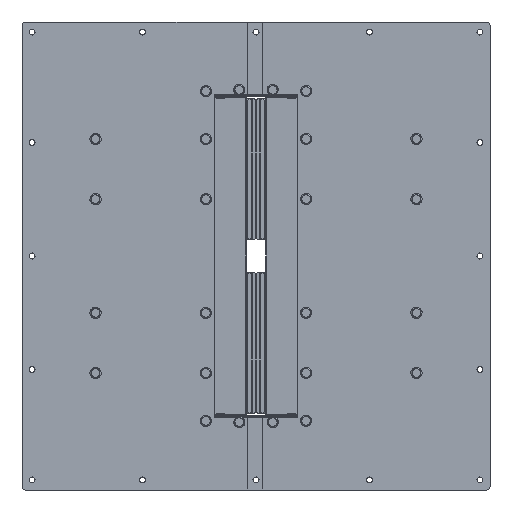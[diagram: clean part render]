
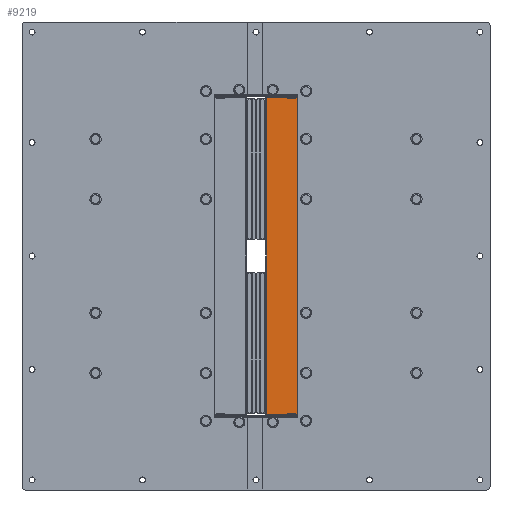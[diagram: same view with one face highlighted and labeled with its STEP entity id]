
A CAD part, left-side view. The second image highlights one B-rep face of the part: STEP entity #9219.
In plain terms, the highlighted planar face has unit normal (-1, 0, 0).
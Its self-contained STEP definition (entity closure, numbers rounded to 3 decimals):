
#8285=AXIS2_PLACEMENT_3D('Plane Axis2P3D',#8282,#8283,#8284) ;
#8419=AXIS2_PLACEMENT_3D('Circle Axis2P3D',#8417,#8418,$) ;
#8481=AXIS2_PLACEMENT_3D('Circle Axis2P3D',#8479,#8480,$) ;
#8757=AXIS2_PLACEMENT_3D('Circle Axis2P3D',#8755,#8756,$) ;
#8805=AXIS2_PLACEMENT_3D('Circle Axis2P3D',#8803,#8804,$) ;
#9113=AXIS2_PLACEMENT_3D('Circle Axis2P3D',#9111,#9112,$) ;
#9122=AXIS2_PLACEMENT_3D('Circle Axis2P3D',#9120,#9121,$) ;
#9131=AXIS2_PLACEMENT_3D('Circle Axis2P3D',#9129,#9130,$) ;
#9140=AXIS2_PLACEMENT_3D('Circle Axis2P3D',#9138,#9139,$) ;
#9149=AXIS2_PLACEMENT_3D('Circle Axis2P3D',#9147,#9148,$) ;
#9158=AXIS2_PLACEMENT_3D('Circle Axis2P3D',#9156,#9157,$) ;
#9167=AXIS2_PLACEMENT_3D('Circle Axis2P3D',#9165,#9166,$) ;
#9176=AXIS2_PLACEMENT_3D('Circle Axis2P3D',#9174,#9175,$) ;
#9185=AXIS2_PLACEMENT_3D('Circle Axis2P3D',#9183,#9184,$) ;
#9194=AXIS2_PLACEMENT_3D('Circle Axis2P3D',#9192,#9193,$) ;
#9203=AXIS2_PLACEMENT_3D('Circle Axis2P3D',#9201,#9202,$) ;
#9212=AXIS2_PLACEMENT_3D('Circle Axis2P3D',#9210,#9211,$) ;
#8282=CARTESIAN_POINT('Axis2P3D Location',(0.,0.,0.)) ;
#8323=CARTESIAN_POINT('Vertex',(0.,-60.,238.5)) ;
#8328=CARTESIAN_POINT('Line Origine',(0.,-60.,249.25)) ;
#8332=CARTESIAN_POINT('Vertex',(0.,-60.,260.)) ;
#8386=CARTESIAN_POINT('Line Origine',(0.,-69.,260.)) ;
#8390=CARTESIAN_POINT('Vertex',(0.,-78.,260.)) ;
#8417=CARTESIAN_POINT('Axis2P3D Location',(0.,-78.,255.)) ;
#8421=CARTESIAN_POINT('Vertex',(0.,-83.,255.)) ;
#8448=CARTESIAN_POINT('Line Origine',(0.,-83.,0.)) ;
#8452=CARTESIAN_POINT('Vertex',(0.,-83.,-255.)) ;
#8479=CARTESIAN_POINT('Axis2P3D Location',(0.,-78.,-255.)) ;
#8483=CARTESIAN_POINT('Vertex',(0.,-78.,-260.)) ;
#8510=CARTESIAN_POINT('Line Origine',(0.,-69.,-260.)) ;
#8514=CARTESIAN_POINT('Vertex',(0.,-60.,-260.)) ;
#8536=CARTESIAN_POINT('Line Origine',(0.,-60.,-249.25)) ;
#8540=CARTESIAN_POINT('Vertex',(0.,-60.,-238.5)) ;
#8580=CARTESIAN_POINT('Vertex',(0.,-57.5,237.)) ;
#8583=CARTESIAN_POINT('Line Origine',(0.,-57.5,237.75)) ;
#8587=CARTESIAN_POINT('Vertex',(0.,-57.5,238.5)) ;
#8618=CARTESIAN_POINT('Vertex',(0.,-16.62,237.)) ;
#8621=CARTESIAN_POINT('Line Origine',(0.,-37.06,237.)) ;
#8752=CARTESIAN_POINT('Vertex',(0.,-16.12,236.5)) ;
#8755=CARTESIAN_POINT('Axis2P3D Location',(0.,-16.62,236.5)) ;
#8776=CARTESIAN_POINT('Vertex',(0.,-16.12,-236.5)) ;
#8779=CARTESIAN_POINT('Line Origine',(0.,-16.12,0.)) ;
#8800=CARTESIAN_POINT('Vertex',(0.,-16.62,-237.)) ;
#8803=CARTESIAN_POINT('Axis2P3D Location',(0.,-16.62,-236.5)) ;
#8824=CARTESIAN_POINT('Vertex',(0.,-57.5,-237.)) ;
#8827=CARTESIAN_POINT('Line Origine',(0.,-37.06,-237.)) ;
#8843=CARTESIAN_POINT('Vertex',(0.,-57.5,-238.5)) ;
#8846=CARTESIAN_POINT('Line Origine',(0.,-57.5,-237.75)) ;
#8885=CARTESIAN_POINT('Line Origine',(0.,-58.75,-238.5)) ;
#8946=CARTESIAN_POINT('Line Origine',(0.,-58.75,238.5)) ;
#9111=CARTESIAN_POINT('Axis2P3D Location',(0.,-73.5,175.)) ;
#9115=CARTESIAN_POINT('Vertex',(0.,-79.,175.)) ;
#9117=CARTESIAN_POINT('Vertex',(0.,-68.,175.)) ;
#9120=CARTESIAN_POINT('Axis2P3D Location',(0.,-73.5,175.)) ;
#9129=CARTESIAN_POINT('Axis2P3D Location',(0.,-73.5,85.)) ;
#9133=CARTESIAN_POINT('Vertex',(0.,-79.,85.)) ;
#9135=CARTESIAN_POINT('Vertex',(0.,-68.,85.)) ;
#9138=CARTESIAN_POINT('Axis2P3D Location',(0.,-73.5,85.)) ;
#9147=CARTESIAN_POINT('Axis2P3D Location',(0.,-73.5,-85.)) ;
#9151=CARTESIAN_POINT('Vertex',(0.,-79.,-85.)) ;
#9153=CARTESIAN_POINT('Vertex',(0.,-68.,-85.)) ;
#9156=CARTESIAN_POINT('Axis2P3D Location',(0.,-73.5,-85.)) ;
#9165=CARTESIAN_POINT('Axis2P3D Location',(0.,-73.5,-175.)) ;
#9169=CARTESIAN_POINT('Vertex',(0.,-79.,-175.)) ;
#9171=CARTESIAN_POINT('Vertex',(0.,-68.,-175.)) ;
#9174=CARTESIAN_POINT('Axis2P3D Location',(0.,-73.5,-175.)) ;
#9183=CARTESIAN_POINT('Axis2P3D Location',(0.,-73.5,246.5)) ;
#9187=CARTESIAN_POINT('Vertex',(0.,-79.,246.5)) ;
#9189=CARTESIAN_POINT('Vertex',(0.,-68.,246.5)) ;
#9192=CARTESIAN_POINT('Axis2P3D Location',(0.,-73.5,246.5)) ;
#9201=CARTESIAN_POINT('Axis2P3D Location',(0.,-73.5,-246.5)) ;
#9205=CARTESIAN_POINT('Vertex',(0.,-79.,-246.5)) ;
#9207=CARTESIAN_POINT('Vertex',(0.,-68.,-246.5)) ;
#9210=CARTESIAN_POINT('Axis2P3D Location',(0.,-73.5,-246.5)) ;
#8283=DIRECTION('Axis2P3D Direction',(1.,0.,0.)) ;
#8284=DIRECTION('Axis2P3D XDirection',(0.,1.,0.)) ;
#8329=DIRECTION('Vector Direction',(0.,0.,-1.)) ;
#8387=DIRECTION('Vector Direction',(0.,-1.,0.)) ;
#8418=DIRECTION('Axis2P3D Direction',(1.,0.,0.)) ;
#8449=DIRECTION('Vector Direction',(0.,0.,1.)) ;
#8480=DIRECTION('Axis2P3D Direction',(1.,0.,0.)) ;
#8511=DIRECTION('Vector Direction',(0.,1.,0.)) ;
#8537=DIRECTION('Vector Direction',(0.,0.,-1.)) ;
#8584=DIRECTION('Vector Direction',(0.,0.,-1.)) ;
#8622=DIRECTION('Vector Direction',(0.,1.,0.)) ;
#8756=DIRECTION('Axis2P3D Direction',(1.,0.,0.)) ;
#8780=DIRECTION('Vector Direction',(0.,0.,1.)) ;
#8804=DIRECTION('Axis2P3D Direction',(1.,0.,0.)) ;
#8828=DIRECTION('Vector Direction',(0.,-1.,0.)) ;
#8847=DIRECTION('Vector Direction',(0.,0.,-1.)) ;
#8886=DIRECTION('Vector Direction',(0.,1.,0.)) ;
#8947=DIRECTION('Vector Direction',(0.,-1.,0.)) ;
#9112=DIRECTION('Axis2P3D Direction',(1.,0.,0.)) ;
#9121=DIRECTION('Axis2P3D Direction',(1.,0.,0.)) ;
#9130=DIRECTION('Axis2P3D Direction',(1.,0.,0.)) ;
#9139=DIRECTION('Axis2P3D Direction',(1.,0.,0.)) ;
#9148=DIRECTION('Axis2P3D Direction',(1.,0.,0.)) ;
#9157=DIRECTION('Axis2P3D Direction',(1.,0.,0.)) ;
#9166=DIRECTION('Axis2P3D Direction',(1.,0.,0.)) ;
#9175=DIRECTION('Axis2P3D Direction',(1.,0.,0.)) ;
#9184=DIRECTION('Axis2P3D Direction',(1.,0.,0.)) ;
#9193=DIRECTION('Axis2P3D Direction',(1.,0.,0.)) ;
#9202=DIRECTION('Axis2P3D Direction',(1.,0.,0.)) ;
#9211=DIRECTION('Axis2P3D Direction',(1.,0.,0.)) ;
#8330=VECTOR('Line Direction',#8329,1.) ;
#8388=VECTOR('Line Direction',#8387,1.) ;
#8450=VECTOR('Line Direction',#8449,1.) ;
#8512=VECTOR('Line Direction',#8511,1.) ;
#8538=VECTOR('Line Direction',#8537,1.) ;
#8585=VECTOR('Line Direction',#8584,1.) ;
#8623=VECTOR('Line Direction',#8622,1.) ;
#8781=VECTOR('Line Direction',#8780,1.) ;
#8829=VECTOR('Line Direction',#8828,1.) ;
#8848=VECTOR('Line Direction',#8847,1.) ;
#8887=VECTOR('Line Direction',#8886,1.) ;
#8948=VECTOR('Line Direction',#8947,1.) ;
#9094=ORIENTED_EDGE('',*,*,#8589,.T.) ;
#9095=ORIENTED_EDGE('',*,*,#8625,.T.) ;
#9096=ORIENTED_EDGE('',*,*,#8759,.T.) ;
#9097=ORIENTED_EDGE('',*,*,#8783,.T.) ;
#9098=ORIENTED_EDGE('',*,*,#8807,.T.) ;
#9099=ORIENTED_EDGE('',*,*,#8831,.T.) ;
#9100=ORIENTED_EDGE('',*,*,#8850,.T.) ;
#9101=ORIENTED_EDGE('',*,*,#8889,.F.) ;
#9102=ORIENTED_EDGE('',*,*,#8542,.F.) ;
#9103=ORIENTED_EDGE('',*,*,#8516,.F.) ;
#9104=ORIENTED_EDGE('',*,*,#8485,.F.) ;
#9105=ORIENTED_EDGE('',*,*,#8454,.F.) ;
#9106=ORIENTED_EDGE('',*,*,#8423,.F.) ;
#9107=ORIENTED_EDGE('',*,*,#8392,.F.) ;
#9108=ORIENTED_EDGE('',*,*,#8334,.F.) ;
#9109=ORIENTED_EDGE('',*,*,#8950,.F.) ;
#9126=ORIENTED_EDGE('',*,*,#9119,.T.) ;
#9127=ORIENTED_EDGE('',*,*,#9124,.T.) ;
#9144=ORIENTED_EDGE('',*,*,#9137,.T.) ;
#9145=ORIENTED_EDGE('',*,*,#9142,.T.) ;
#9162=ORIENTED_EDGE('',*,*,#9155,.T.) ;
#9163=ORIENTED_EDGE('',*,*,#9160,.T.) ;
#9180=ORIENTED_EDGE('',*,*,#9173,.T.) ;
#9181=ORIENTED_EDGE('',*,*,#9178,.T.) ;
#9198=ORIENTED_EDGE('',*,*,#9191,.T.) ;
#9199=ORIENTED_EDGE('',*,*,#9196,.T.) ;
#9216=ORIENTED_EDGE('',*,*,#9209,.T.) ;
#9217=ORIENTED_EDGE('',*,*,#9214,.T.) ;
#9128=FACE_BOUND('',#9125,.T.) ;
#9146=FACE_BOUND('',#9143,.T.) ;
#9164=FACE_BOUND('',#9161,.T.) ;
#9182=FACE_BOUND('',#9179,.T.) ;
#9200=FACE_BOUND('',#9197,.T.) ;
#9218=FACE_BOUND('',#9215,.T.) ;
#9219=ADVANCED_FACE('Laterale(L3)',(#9110,#9128,#9146,#9164,#9182,#9200,#9218),#8286,.F.) ;
#8420=CIRCLE('generated circle',#8419,5.) ;
#8482=CIRCLE('generated circle',#8481,5.) ;
#8758=CIRCLE('generated circle',#8757,0.5) ;
#8806=CIRCLE('generated circle',#8805,0.5) ;
#9114=CIRCLE('generated circle',#9113,5.5) ;
#9123=CIRCLE('generated circle',#9122,5.5) ;
#9132=CIRCLE('generated circle',#9131,5.5) ;
#9141=CIRCLE('generated circle',#9140,5.5) ;
#9150=CIRCLE('generated circle',#9149,5.5) ;
#9159=CIRCLE('generated circle',#9158,5.5) ;
#9168=CIRCLE('generated circle',#9167,5.5) ;
#9177=CIRCLE('generated circle',#9176,5.5) ;
#9186=CIRCLE('generated circle',#9185,5.5) ;
#9195=CIRCLE('generated circle',#9194,5.5) ;
#9204=CIRCLE('generated circle',#9203,5.5) ;
#9213=CIRCLE('generated circle',#9212,5.5) ;
#8334=EDGE_CURVE('',#8324,#8333,#8331,.F.) ;
#8392=EDGE_CURVE('',#8333,#8391,#8389,.T.) ;
#8423=EDGE_CURVE('',#8391,#8422,#8420,.T.) ;
#8454=EDGE_CURVE('',#8422,#8453,#8451,.F.) ;
#8485=EDGE_CURVE('',#8453,#8484,#8482,.T.) ;
#8516=EDGE_CURVE('',#8484,#8515,#8513,.T.) ;
#8542=EDGE_CURVE('',#8515,#8541,#8539,.F.) ;
#8589=EDGE_CURVE('',#8588,#8581,#8586,.T.) ;
#8625=EDGE_CURVE('',#8581,#8619,#8624,.T.) ;
#8759=EDGE_CURVE('',#8619,#8753,#8758,.F.) ;
#8783=EDGE_CURVE('',#8753,#8777,#8782,.F.) ;
#8807=EDGE_CURVE('',#8777,#8801,#8806,.F.) ;
#8831=EDGE_CURVE('',#8801,#8825,#8830,.T.) ;
#8850=EDGE_CURVE('',#8825,#8844,#8849,.T.) ;
#8889=EDGE_CURVE('',#8541,#8844,#8888,.T.) ;
#8950=EDGE_CURVE('',#8588,#8324,#8949,.T.) ;
#9119=EDGE_CURVE('',#9116,#9118,#9114,.T.) ;
#9124=EDGE_CURVE('',#9118,#9116,#9123,.T.) ;
#9137=EDGE_CURVE('',#9134,#9136,#9132,.T.) ;
#9142=EDGE_CURVE('',#9136,#9134,#9141,.T.) ;
#9155=EDGE_CURVE('',#9152,#9154,#9150,.T.) ;
#9160=EDGE_CURVE('',#9154,#9152,#9159,.T.) ;
#9173=EDGE_CURVE('',#9170,#9172,#9168,.T.) ;
#9178=EDGE_CURVE('',#9172,#9170,#9177,.T.) ;
#9191=EDGE_CURVE('',#9188,#9190,#9186,.T.) ;
#9196=EDGE_CURVE('',#9190,#9188,#9195,.T.) ;
#9209=EDGE_CURVE('',#9206,#9208,#9204,.T.) ;
#9214=EDGE_CURVE('',#9208,#9206,#9213,.T.) ;
#9093=EDGE_LOOP('',(#9094,#9095,#9096,#9097,#9098,#9099,#9100,#9101,#9102,#9103,#9104,#9105,#9106,#9107,#9108,#9109)) ;
#9125=EDGE_LOOP('',(#9126,#9127)) ;
#9143=EDGE_LOOP('',(#9144,#9145)) ;
#9161=EDGE_LOOP('',(#9162,#9163)) ;
#9179=EDGE_LOOP('',(#9180,#9181)) ;
#9197=EDGE_LOOP('',(#9198,#9199)) ;
#9215=EDGE_LOOP('',(#9216,#9217)) ;
#9110=FACE_OUTER_BOUND('',#9093,.T.) ;
#8331=LINE('Line',#8328,#8330) ;
#8389=LINE('Line',#8386,#8388) ;
#8451=LINE('Line',#8448,#8450) ;
#8513=LINE('Line',#8510,#8512) ;
#8539=LINE('Line',#8536,#8538) ;
#8586=LINE('Line',#8583,#8585) ;
#8624=LINE('Line',#8621,#8623) ;
#8782=LINE('Line',#8779,#8781) ;
#8830=LINE('Line',#8827,#8829) ;
#8849=LINE('Line',#8846,#8848) ;
#8888=LINE('Line',#8885,#8887) ;
#8949=LINE('Line',#8946,#8948) ;
#8286=PLANE('',#8285) ;
#8324=VERTEX_POINT('',#8323) ;
#8333=VERTEX_POINT('',#8332) ;
#8391=VERTEX_POINT('',#8390) ;
#8422=VERTEX_POINT('',#8421) ;
#8453=VERTEX_POINT('',#8452) ;
#8484=VERTEX_POINT('',#8483) ;
#8515=VERTEX_POINT('',#8514) ;
#8541=VERTEX_POINT('',#8540) ;
#8581=VERTEX_POINT('',#8580) ;
#8588=VERTEX_POINT('',#8587) ;
#8619=VERTEX_POINT('',#8618) ;
#8753=VERTEX_POINT('',#8752) ;
#8777=VERTEX_POINT('',#8776) ;
#8801=VERTEX_POINT('',#8800) ;
#8825=VERTEX_POINT('',#8824) ;
#8844=VERTEX_POINT('',#8843) ;
#9116=VERTEX_POINT('',#9115) ;
#9118=VERTEX_POINT('',#9117) ;
#9134=VERTEX_POINT('',#9133) ;
#9136=VERTEX_POINT('',#9135) ;
#9152=VERTEX_POINT('',#9151) ;
#9154=VERTEX_POINT('',#9153) ;
#9170=VERTEX_POINT('',#9169) ;
#9172=VERTEX_POINT('',#9171) ;
#9188=VERTEX_POINT('',#9187) ;
#9190=VERTEX_POINT('',#9189) ;
#9206=VERTEX_POINT('',#9205) ;
#9208=VERTEX_POINT('',#9207) ;
